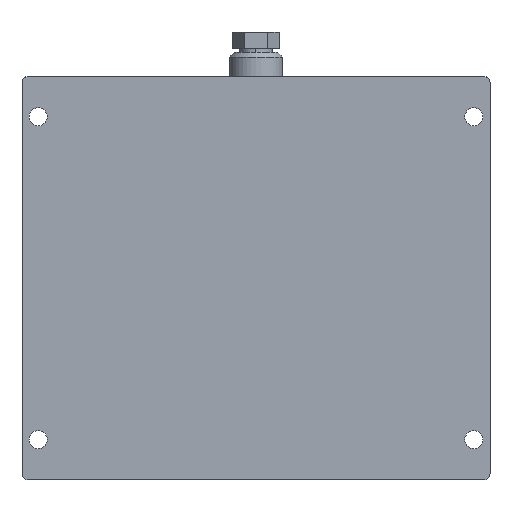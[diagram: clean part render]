
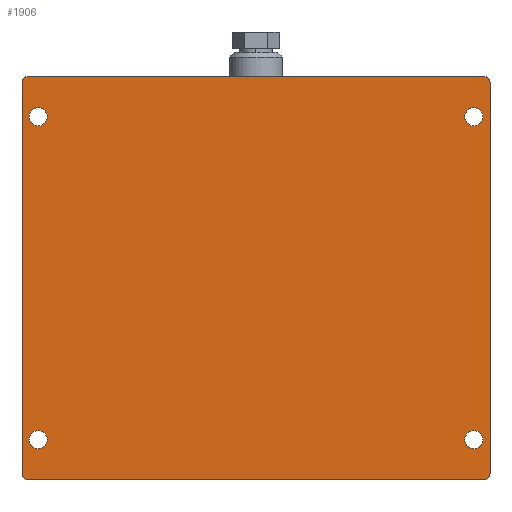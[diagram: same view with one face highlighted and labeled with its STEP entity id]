
A CAD part, front view. The second image highlights one B-rep face of the part: STEP entity #1906.
In plain terms, the highlighted planar face has unit normal (0, -1, 0).
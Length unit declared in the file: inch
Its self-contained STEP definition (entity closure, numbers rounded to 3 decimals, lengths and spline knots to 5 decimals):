
#36 = DIRECTION ( 'NONE',  ( 0., 1., 0. ) ) ;
#42 = DIRECTION ( 'NONE',  ( 0., 1., 0. ) ) ;
#48 = EDGE_LOOP ( 'NONE', ( #715, #2795 ) ) ;
#65 = CARTESIAN_POINT ( 'NONE',  ( -6.75, -0.1875, 4.71875 ) ) ;
#108 = EDGE_CURVE ( 'NONE', #900, #845, #760, .T. ) ;
#137 = CIRCLE ( 'NONE', #1556, 0.28125 ) ;
#141 = CARTESIAN_POINT ( 'NONE',  ( -7.0625, -0.1875, -6.25 ) ) ;
#159 = DIRECTION ( 'NONE',  ( 0., 0., -1. ) ) ;
#168 = EDGE_LOOP ( 'NONE', ( #3053, #669 ) ) ;
#170 = AXIS2_PLACEMENT_3D ( 'NONE', #1438, #2644, #1177 ) ;
#182 = EDGE_CURVE ( 'NONE', #614, #1910, #542, .T. ) ;
#192 = ORIENTED_EDGE ( 'NONE', *, *, #268, .F. ) ;
#257 = FACE_BOUND ( 'NONE', #48, .T. ) ;
#259 = VERTEX_POINT ( 'NONE', #1813 ) ;
#268 = EDGE_CURVE ( 'NONE', #433, #614, #1770, .T. ) ;
#320 = CARTESIAN_POINT ( 'NONE',  ( 7.25, -0.1875, -6.0625 ) ) ;
#330 = VERTEX_POINT ( 'NONE', #2601 ) ;
#339 = CIRCLE ( 'NONE', #1112, 0.28125 ) ;
#352 = ORIENTED_EDGE ( 'NONE', *, *, #2209, .T. ) ;
#414 = CIRCLE ( 'NONE', #2866, 0.1875 ) ;
#420 = DIRECTION ( 'NONE',  ( 0., 1., 0. ) ) ;
#431 = VERTEX_POINT ( 'NONE', #3046 ) ;
#433 = VERTEX_POINT ( 'NONE', #2069 ) ;
#451 = DIRECTION ( 'NONE',  ( 0., 1., 0. ) ) ;
#455 = DIRECTION ( 'NONE',  ( 0., 1., 0. ) ) ;
#467 = DIRECTION ( 'NONE',  ( 0., 0., 1. ) ) ;
#524 = ORIENTED_EDGE ( 'NONE', *, *, #2990, .T. ) ;
#541 = DIRECTION ( 'NONE',  ( 0., 0., -1. ) ) ;
#542 = CIRCLE ( 'NONE', #1224, 0.1875 ) ;
#553 = CARTESIAN_POINT ( 'NONE',  ( -7.0625, -0.1875, 6.25 ) ) ;
#564 = CARTESIAN_POINT ( 'NONE',  ( -7.0625, -0.1875, 6.0625 ) ) ;
#600 = ORIENTED_EDGE ( 'NONE', *, *, #2251, .F. ) ;
#607 = CARTESIAN_POINT ( 'NONE',  ( -6.75, -0.1875, 5. ) ) ;
#614 = VERTEX_POINT ( 'NONE', #320 ) ;
#618 = EDGE_CURVE ( 'NONE', #2701, #431, #1903, .T. ) ;
#624 = DIRECTION ( 'NONE',  ( -1., 0., 0. ) ) ;
#627 = DIRECTION ( 'NONE',  ( 0., 0., -1. ) ) ;
#637 = DIRECTION ( 'NONE',  ( 0., 1., 0. ) ) ;
#638 = ORIENTED_EDGE ( 'NONE', *, *, #618, .F. ) ;
#644 = EDGE_CURVE ( 'NONE', #976, #1017, #414, .T. ) ;
#669 = ORIENTED_EDGE ( 'NONE', *, *, #2883, .T. ) ;
#689 = DIRECTION ( 'NONE',  ( 0., 0., 1. ) ) ;
#697 = CARTESIAN_POINT ( 'NONE',  ( 6.75, -0.1875, -5. ) ) ;
#701 = DIRECTION ( 'NONE',  ( 1., 0., 0. ) ) ;
#706 = CARTESIAN_POINT ( 'NONE',  ( -6.75, -0.1875, -4.71875 ) ) ;
#715 = ORIENTED_EDGE ( 'NONE', *, *, #2604, .T. ) ;
#723 = CARTESIAN_POINT ( 'NONE',  ( 6.75, -0.1875, 5. ) ) ;
#760 = CIRCLE ( 'NONE', #1427, 0.28125 ) ;
#845 = VERTEX_POINT ( 'NONE', #1419 ) ;
#884 = CIRCLE ( 'NONE', #1650, 0.1875 ) ;
#898 = VERTEX_POINT ( 'NONE', #2407 ) ;
#900 = VERTEX_POINT ( 'NONE', #706 ) ;
#909 = AXIS2_PLACEMENT_3D ( 'NONE', #1157, #1399, #1629 ) ;
#918 = FACE_BOUND ( 'NONE', #1310, .T. ) ;
#934 = PLANE ( 'NONE',  #909 ) ;
#948 = CARTESIAN_POINT ( 'NONE',  ( -6.75, -0.1875, 5.28125 ) ) ;
#951 = DIRECTION ( 'NONE',  ( 0., 0., 1. ) ) ;
#955 = CIRCLE ( 'NONE', #1691, 0.28125 ) ;
#976 = VERTEX_POINT ( 'NONE', #1736 ) ;
#1017 = VERTEX_POINT ( 'NONE', #553 ) ;
#1037 = LINE ( 'NONE', #141, #2475 ) ;
#1112 = AXIS2_PLACEMENT_3D ( 'NONE', #723, #36, #689 ) ;
#1117 = ORIENTED_EDGE ( 'NONE', *, *, #2597, .F. ) ;
#1127 = VERTEX_POINT ( 'NONE', #2706 ) ;
#1139 = DIRECTION ( 'NONE',  ( 0., 1., 0. ) ) ;
#1141 = DIRECTION ( 'NONE',  ( 0., 0., 1. ) ) ;
#1157 = CARTESIAN_POINT ( 'NONE',  ( 7.0625, -0.1875, 6.0625 ) ) ;
#1175 = CARTESIAN_POINT ( 'NONE',  ( -7.0625, -0.1875, -6.25 ) ) ;
#1177 = DIRECTION ( 'NONE',  ( 0., 0., -1. ) ) ;
#1224 = AXIS2_PLACEMENT_3D ( 'NONE', #2065, #420, #627 ) ;
#1281 = EDGE_LOOP ( 'NONE', ( #1696, #352 ) ) ;
#1310 = EDGE_LOOP ( 'NONE', ( #2491, #524 ) ) ;
#1355 = EDGE_CURVE ( 'NONE', #330, #259, #1783, .T. ) ;
#1366 = AXIS2_PLACEMENT_3D ( 'NONE', #607, #2286, #159 ) ;
#1392 = ORIENTED_EDGE ( 'NONE', *, *, #182, .F. ) ;
#1399 = DIRECTION ( 'NONE',  ( 0., 1., 0. ) ) ;
#1405 = CARTESIAN_POINT ( 'NONE',  ( 7.0625, -0.1875, 6.0625 ) ) ;
#1406 = FACE_BOUND ( 'NONE', #168, .T. ) ;
#1419 = CARTESIAN_POINT ( 'NONE',  ( -6.75, -0.1875, -5.28125 ) ) ;
#1427 = AXIS2_PLACEMENT_3D ( 'NONE', #2480, #42, #541 ) ;
#1438 = CARTESIAN_POINT ( 'NONE',  ( -6.75, -0.1875, -5. ) ) ;
#1498 = DIRECTION ( 'NONE',  ( 0., 1., 0. ) ) ;
#1541 = DIRECTION ( 'NONE',  ( 0., 0., -1. ) ) ;
#1556 = AXIS2_PLACEMENT_3D ( 'NONE', #2843, #451, #1661 ) ;
#1600 = CIRCLE ( 'NONE', #1366, 0.28125 ) ;
#1604 = CARTESIAN_POINT ( 'NONE',  ( 7.25, -0.1875, 6.0625 ) ) ;
#1629 = DIRECTION ( 'NONE',  ( 0., 0., 1. ) ) ;
#1644 = DIRECTION ( 'NONE',  ( 0., 0., 1. ) ) ;
#1650 = AXIS2_PLACEMENT_3D ( 'NONE', #1405, #455, #467 ) ;
#1661 = DIRECTION ( 'NONE',  ( 0., 0., -1. ) ) ;
#1671 = CIRCLE ( 'NONE', #170, 0.28125 ) ;
#1691 = AXIS2_PLACEMENT_3D ( 'NONE', #2090, #1139, #2579 ) ;
#1696 = ORIENTED_EDGE ( 'NONE', *, *, #108, .T. ) ;
#1722 = VERTEX_POINT ( 'NONE', #1731 ) ;
#1726 = DIRECTION ( 'NONE',  ( 0., 0., -1. ) ) ;
#1731 = CARTESIAN_POINT ( 'NONE',  ( 6.75, -0.1875, -4.71875 ) ) ;
#1736 = CARTESIAN_POINT ( 'NONE',  ( -7.25, -0.1875, 6.0625 ) ) ;
#1770 = LINE ( 'NONE', #1604, #2908 ) ;
#1771 = ORIENTED_EDGE ( 'NONE', *, *, #2201, .F. ) ;
#1783 = CIRCLE ( 'NONE', #2984, 0.28125 ) ;
#1813 = CARTESIAN_POINT ( 'NONE',  ( 6.75, -0.1875, 4.71875 ) ) ;
#1866 = ORIENTED_EDGE ( 'NONE', *, *, #2231, .F. ) ;
#1898 = CARTESIAN_POINT ( 'NONE',  ( -7.0625, -0.1875, 6.25 ) ) ;
#1903 = CIRCLE ( 'NONE', #3040, 0.1875 ) ;
#1906 = ADVANCED_FACE ( 'NONE', ( #257, #2118, #918, #1406, #2992 ), #934, .F. ) ;
#1910 = VERTEX_POINT ( 'NONE', #2854 ) ;
#1950 = VERTEX_POINT ( 'NONE', #948 ) ;
#1969 = EDGE_CURVE ( 'NONE', #2335, #1950, #137, .T. ) ;
#2027 = ORIENTED_EDGE ( 'NONE', *, *, #644, .F. ) ;
#2065 = CARTESIAN_POINT ( 'NONE',  ( 7.0625, -0.1875, -6.0625 ) ) ;
#2069 = CARTESIAN_POINT ( 'NONE',  ( 7.25, -0.1875, 6.0625 ) ) ;
#2090 = CARTESIAN_POINT ( 'NONE',  ( 6.75, -0.1875, -5. ) ) ;
#2114 = DIRECTION ( 'NONE',  ( 0., 0., -1. ) ) ;
#2118 = FACE_BOUND ( 'NONE', #1281, .T. ) ;
#2177 = DIRECTION ( 'NONE',  ( 0., 1., 0. ) ) ;
#2179 = CIRCLE ( 'NONE', #2932, 0.28125 ) ;
#2200 = EDGE_LOOP ( 'NONE', ( #600, #1771, #2027, #1866, #638, #1117, #1392, #192 ) ) ;
#2201 = EDGE_CURVE ( 'NONE', #1017, #898, #2919, .T. ) ;
#2209 = EDGE_CURVE ( 'NONE', #845, #900, #1671, .T. ) ;
#2231 = EDGE_CURVE ( 'NONE', #431, #976, #2386, .T. ) ;
#2251 = EDGE_CURVE ( 'NONE', #898, #433, #884, .T. ) ;
#2275 = VECTOR ( 'NONE', #701, 39.37008 ) ;
#2286 = DIRECTION ( 'NONE',  ( 0., 1., 0. ) ) ;
#2335 = VERTEX_POINT ( 'NONE', #65 ) ;
#2337 = DIRECTION ( 'NONE',  ( 0., 1., 0. ) ) ;
#2386 = LINE ( 'NONE', #2618, #2661 ) ;
#2407 = CARTESIAN_POINT ( 'NONE',  ( 7.0625, -0.1875, 6.25 ) ) ;
#2474 = CARTESIAN_POINT ( 'NONE',  ( -7.0625, -0.1875, -6.0625 ) ) ;
#2475 = VECTOR ( 'NONE', #624, 39.37008 ) ;
#2480 = CARTESIAN_POINT ( 'NONE',  ( -6.75, -0.1875, -5. ) ) ;
#2491 = ORIENTED_EDGE ( 'NONE', *, *, #2668, .T. ) ;
#2579 = DIRECTION ( 'NONE',  ( 0., 0., 1. ) ) ;
#2597 = EDGE_CURVE ( 'NONE', #1910, #2701, #1037, .T. ) ;
#2601 = CARTESIAN_POINT ( 'NONE',  ( 6.75, -0.1875, 5.28125 ) ) ;
#2604 = EDGE_CURVE ( 'NONE', #1950, #2335, #1600, .T. ) ;
#2618 = CARTESIAN_POINT ( 'NONE',  ( -7.25, -0.1875, 6.0625 ) ) ;
#2644 = DIRECTION ( 'NONE',  ( 0., 1., 0. ) ) ;
#2661 = VECTOR ( 'NONE', #1644, 39.37008 ) ;
#2668 = EDGE_CURVE ( 'NONE', #1722, #1127, #955, .T. ) ;
#2701 = VERTEX_POINT ( 'NONE', #1175 ) ;
#2706 = CARTESIAN_POINT ( 'NONE',  ( 6.75, -0.1875, -5.28125 ) ) ;
#2795 = ORIENTED_EDGE ( 'NONE', *, *, #1969, .T. ) ;
#2843 = CARTESIAN_POINT ( 'NONE',  ( -6.75, -0.1875, 5. ) ) ;
#2854 = CARTESIAN_POINT ( 'NONE',  ( 7.0625, -0.1875, -6.25 ) ) ;
#2866 = AXIS2_PLACEMENT_3D ( 'NONE', #564, #637, #1541 ) ;
#2883 = EDGE_CURVE ( 'NONE', #259, #330, #339, .T. ) ;
#2908 = VECTOR ( 'NONE', #2114, 39.37008 ) ;
#2919 = LINE ( 'NONE', #1898, #2275 ) ;
#2932 = AXIS2_PLACEMENT_3D ( 'NONE', #697, #2177, #951 ) ;
#2984 = AXIS2_PLACEMENT_3D ( 'NONE', #3030, #2337, #1141 ) ;
#2990 = EDGE_CURVE ( 'NONE', #1127, #1722, #2179, .T. ) ;
#2992 = FACE_OUTER_BOUND ( 'NONE', #2200, .T. ) ;
#3030 = CARTESIAN_POINT ( 'NONE',  ( 6.75, -0.1875, 5. ) ) ;
#3040 = AXIS2_PLACEMENT_3D ( 'NONE', #2474, #1498, #1726 ) ;
#3046 = CARTESIAN_POINT ( 'NONE',  ( -7.25, -0.1875, -6.0625 ) ) ;
#3053 = ORIENTED_EDGE ( 'NONE', *, *, #1355, .T. ) ;
